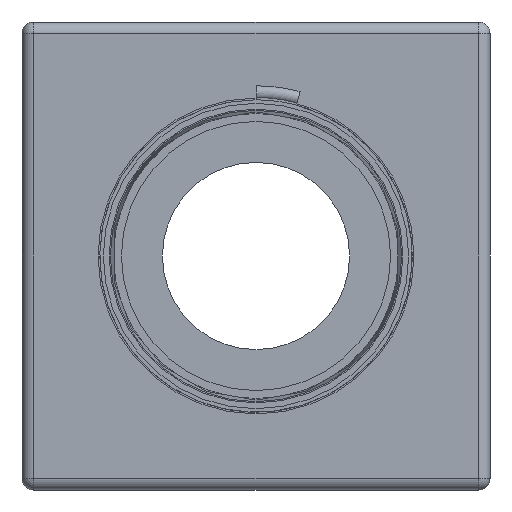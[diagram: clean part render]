
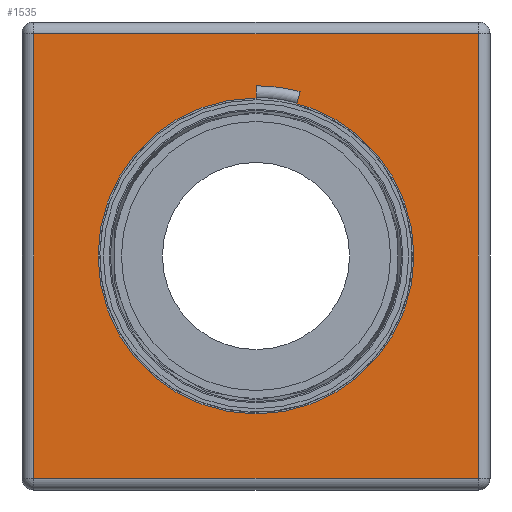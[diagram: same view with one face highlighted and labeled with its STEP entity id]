
A CAD part, front view. The second image highlights one B-rep face of the part: STEP entity #1535.
In plain terms, the highlighted planar face has unit normal (0, -1, 0).
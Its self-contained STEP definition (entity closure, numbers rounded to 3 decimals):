
#81=FACE_BOUND('',#369,.T.);
#140=PLANE('',#1725);
#223=FACE_OUTER_BOUND('',#368,.T.);
#368=EDGE_LOOP('',(#1221,#1222,#1223,#1224));
#369=EDGE_LOOP('',(#1225));
#490=LINE('',#2526,#554);
#494=LINE('',#2546,#558);
#496=LINE('',#2549,#560);
#502=LINE('',#2558,#566);
#554=VECTOR('',#2055,10.);
#558=VECTOR('',#2079,10.);
#560=VECTOR('',#2083,10.);
#566=VECTOR('',#2095,10.);
#656=CIRCLE('',#1726,135.);
#755=VERTEX_POINT('',#2483);
#764=VERTEX_POINT('',#2507);
#767=VERTEX_POINT('',#2517);
#773=VERTEX_POINT('',#2537);
#775=VERTEX_POINT('',#2569);
#918=EDGE_CURVE('',#755,#767,#490,.T.);
#928=EDGE_CURVE('',#767,#773,#494,.T.);
#930=EDGE_CURVE('',#773,#764,#496,.T.);
#936=EDGE_CURVE('',#764,#755,#502,.T.);
#942=EDGE_CURVE('',#775,#775,#656,.T.);
#1221=ORIENTED_EDGE('',*,*,#918,.F.);
#1222=ORIENTED_EDGE('',*,*,#936,.F.);
#1223=ORIENTED_EDGE('',*,*,#930,.F.);
#1224=ORIENTED_EDGE('',*,*,#928,.F.);
#1225=ORIENTED_EDGE('',*,*,#942,.T.);
#1535=ADVANCED_FACE('',(#223,#81),#140,.T.);
#1725=AXIS2_PLACEMENT_3D('',#2568,#2109,#2110);
#1726=AXIS2_PLACEMENT_3D('',#2570,#2111,#2112);
#2055=DIRECTION('',(0.,0.,1.));
#2079=DIRECTION('',(1.,0.,0.));
#2083=DIRECTION('',(0.,0.,-1.));
#2095=DIRECTION('',(-1.,0.,0.));
#2109=DIRECTION('center_axis',(0.,-1.,0.));
#2110=DIRECTION('ref_axis',(0.,0.,-1.));
#2111=DIRECTION('center_axis',(0.,1.,0.));
#2112=DIRECTION('ref_axis',(0.,0.,1.));
#2483=CARTESIAN_POINT('',(-190.,-200.,-190.));
#2507=CARTESIAN_POINT('',(190.,-200.,-190.));
#2517=CARTESIAN_POINT('',(-190.,-200.,190.));
#2526=CARTESIAN_POINT('',(-190.,-200.,-100.));
#2537=CARTESIAN_POINT('',(190.,-200.,190.));
#2546=CARTESIAN_POINT('',(-100.,-200.,190.));
#2549=CARTESIAN_POINT('',(190.,-200.,100.));
#2558=CARTESIAN_POINT('',(100.,-200.,-190.));
#2568=CARTESIAN_POINT('Origin',(0.,-200.,0.));
#2569=CARTESIAN_POINT('',(0.,-200.,135.));
#2570=CARTESIAN_POINT('Origin',(0.,-200.,0.));
